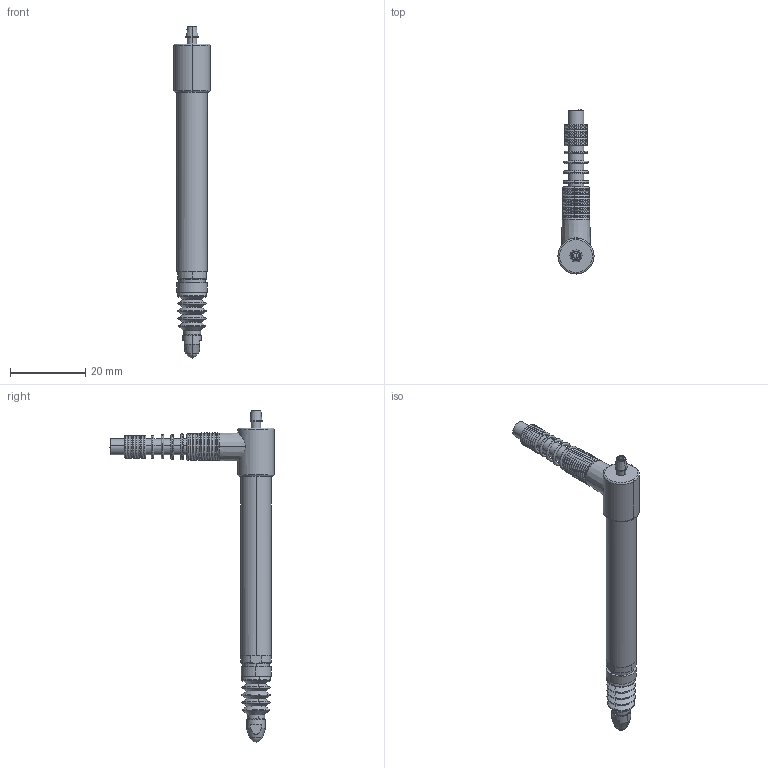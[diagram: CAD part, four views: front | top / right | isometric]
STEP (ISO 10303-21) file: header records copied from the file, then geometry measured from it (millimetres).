
FILE_DESCRIPTION (( 'STEP AP214' ), '1' );
FILE_NAME ('DP-S4V_exterior.STEP', '2015-10-07T10:38:00', ( 'ysgoodman' ), ( '' ), 'SwSTEP 2.0', 'SolidWorks 2014', '' );
FILE_SCHEMA (( 'AUTOMOTIVE_DESIGN' ));
Length unit declared in the file: millimetre
Products named in the file (1): DP-S4V_exterior
Bounding box: 9.6 x 43.7 x 88.42 mm (x, y, z)
Surface area: 4335.8 mm2 (no closed solid volume)
Topology: 0 solids, 43 shells, 226 faces, 697 edges, 490 vertices
Faces by surface type: torus 114, cylinder 47, cone 31, plane 30, sphere 2, bspline 2
Entity records: 11970 total; most frequent: CARTESIAN_POINT 3227, DIRECTION 1410, ORIENTED_EDGE 1117, EDGE_CURVE 692, AXIS2_PLACEMENT_3D 604, VERTEX_POINT 487, CIRCLE 379, EDGE_LOOP 266
